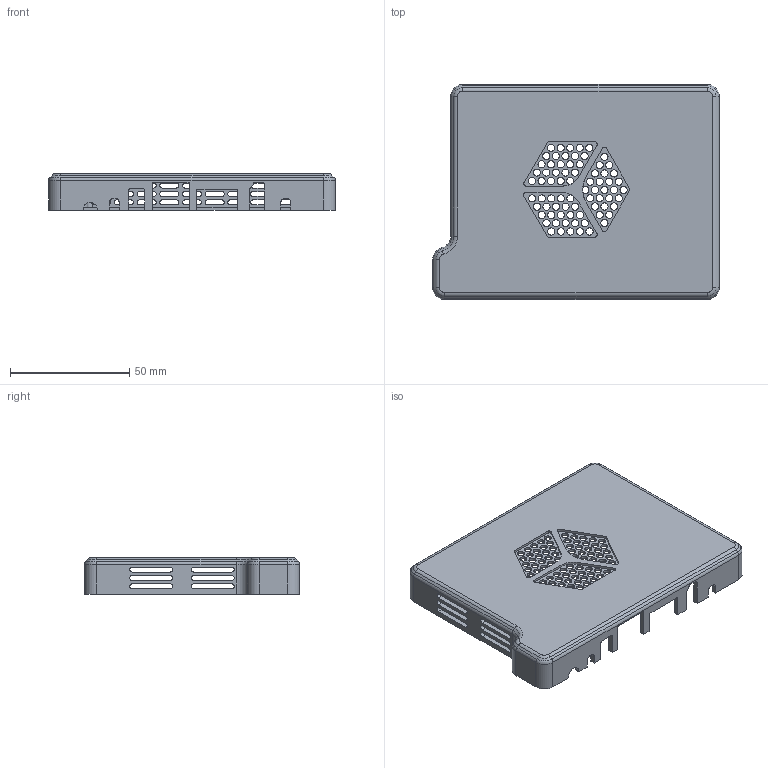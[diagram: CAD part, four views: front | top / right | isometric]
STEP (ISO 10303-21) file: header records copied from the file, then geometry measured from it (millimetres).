
FILE_DESCRIPTION((''),'2;1');
FILE_NAME('0_TOP_COVER','2025-12-10T10:25:25',('ts'),(''),'CREO PARAMETRIC BY PTC INC, 2020154','CREO PARAMETRIC BY PTC INC, 2020154','');
FILE_SCHEMA(('AUTOMOTIVE_DESIGN { 1 0 10303 214 1 1 1 1 }'));
Length unit declared in the file: millimetre
Products named in the file (1): 0_TOP_COVER
Bounding box: 120 x 90 x 15.34 mm (x, y, z)
Volume: 29098.6 mm3; surface area: 30959 mm2
Topology: 1 solids, 1 shells, 493 faces, 1440 edges, 947 vertices
Faces by surface type: cylinder 296, plane 170, torus 12, cone 8, extrusion 7
Entity records: 17317 total; most frequent: CARTESIAN_POINT 3087, DIRECTION 3013, ORIENTED_EDGE 2880, EDGE_CURVE 1440, AXIS2_PLACEMENT_3D 1110, VERTEX_POINT 947, VECTOR 793, LINE 786
